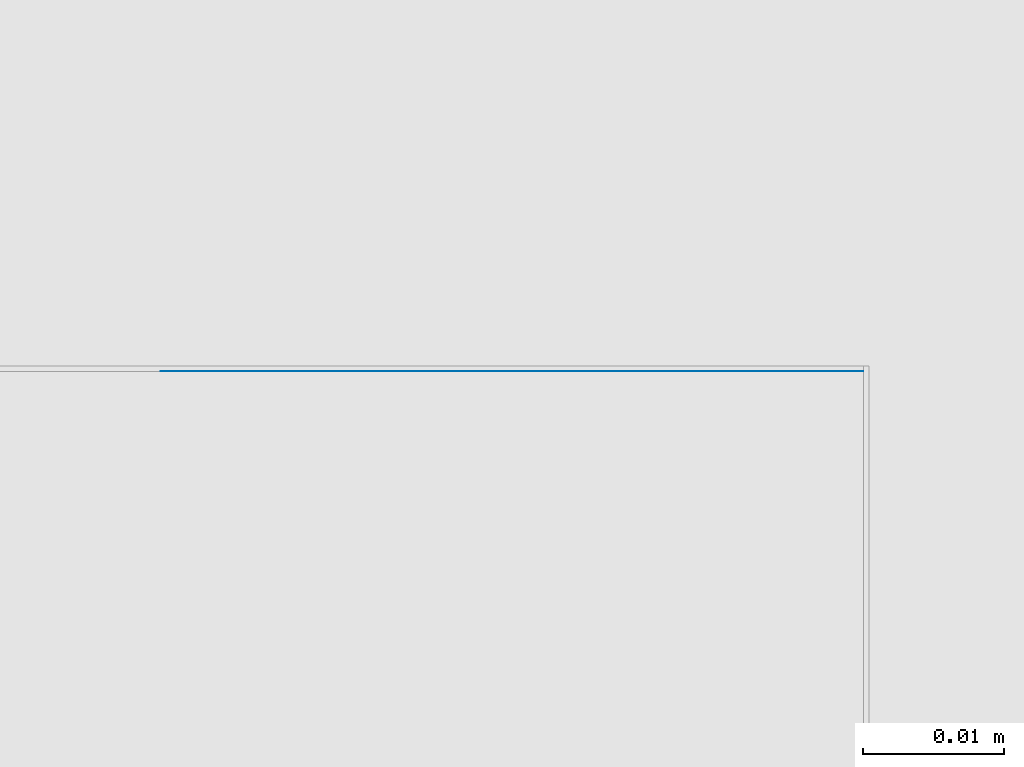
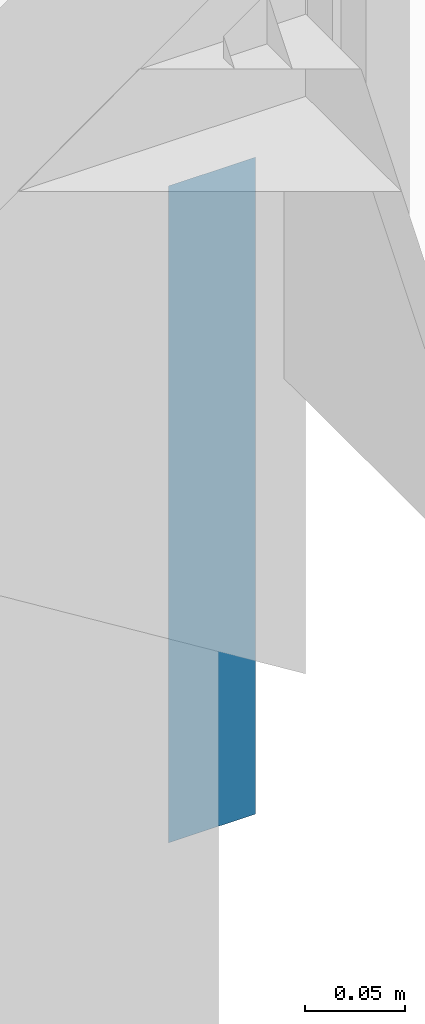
# One storey, part 9 of 16: 1 member, 1 element without a shape of its own.
"""IFC2X3 building model written with IfcOpenShell, lengths in millimetres."""

from ifc_helpers import new_model, entity, si_unit, converted_unit, derived_unit, direction, frame, origin, place, context, subcontext, project, spatial, face_set, surface_model, type_object, element, aggregate, save


model = new_model("IFC2X3")

# Units and contexts
model_context = context("Model", 3, precision=0.01, world=origin(), true_north=direction((4.05803320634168e-15, -1.0)))
body_context = subcontext(model_context, "Body", "Model", "MODEL_VIEW")
ifc_project = project(units=[si_unit("LENGTHUNIT", "METRE", prefix="MILLI"), si_unit("AREAUNIT", "SQUARE_METRE"), si_unit("VOLUMEUNIT", "CUBIC_METRE"), converted_unit("PLANEANGLEUNIT", "DEGREE", entity("IfcRatioMeasure", 0.0174532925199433), si_unit("PLANEANGLEUNIT", "RADIAN"), dimensions=[0, 0, 0, 0, 0, 0, 0]), si_unit("MASSUNIT", "GRAM", prefix="KILO"), derived_unit("MASSDENSITYUNIT", [(si_unit("MASSUNIT", "GRAM", prefix="KILO"), 1), (si_unit("LENGTHUNIT", "METRE"), -3)]), si_unit("TIMEUNIT", "SECOND"), si_unit("FREQUENCYUNIT", "HERTZ"), si_unit("THERMODYNAMICTEMPERATUREUNIT", "DEGREE_CELSIUS"), derived_unit("THERMALTRANSMITTANCEUNIT", [(si_unit("MASSUNIT", "GRAM", prefix="KILO"), 1), (si_unit("THERMODYNAMICTEMPERATUREUNIT", "KELVIN"), -1), (si_unit("TIMEUNIT", "SECOND"), -3)]), derived_unit("VOLUMETRICFLOWRATEUNIT", [(si_unit("LENGTHUNIT", "METRE"), 3), (si_unit("TIMEUNIT", "SECOND"), -1)]), si_unit("ELECTRICCURRENTUNIT", "AMPERE"), si_unit("ELECTRICVOLTAGEUNIT", "VOLT"), si_unit("POWERUNIT", "WATT"), si_unit("FORCEUNIT", "NEWTON", prefix="KILO"), si_unit("ILLUMINANCEUNIT", "LUX"), si_unit("LUMINOUSFLUXUNIT", "LUMEN"), si_unit("LUMINOUSINTENSITYUNIT", "CANDELA"), derived_unit("USERDEFINED", [(si_unit("MASSUNIT", "GRAM", prefix="KILO"), -1), (si_unit("LENGTHUNIT", "METRE"), -2), (si_unit("TIMEUNIT", "SECOND"), 3), (si_unit("LUMINOUSFLUXUNIT", "LUMEN"), 1)]), derived_unit("LINEARVELOCITYUNIT", [(si_unit("LENGTHUNIT", "METRE"), 1), (si_unit("TIMEUNIT", "SECOND"), -1)]), si_unit("PRESSUREUNIT", "PASCAL"), derived_unit("USERDEFINED", [(si_unit("LENGTHUNIT", "METRE"), -2), (si_unit("MASSUNIT", "GRAM", prefix="KILO"), 1), (si_unit("TIMEUNIT", "SECOND"), -2)])], contexts=[model_context])

# Site, building, storey
site_placement = place(None, frame((927466.849349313, 583801.882853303, 0.0), z_axis=(0.0, 0.0, 1.0), x_axis=(-1.0, 0.0, 0.0)))
site = spatial("IfcSite", under=ifc_project, at=site_placement, Name="Surface", CompositionType="ELEMENT")
building_placement = place(site_placement, origin())
building = spatial("IfcBuilding", under=site, at=building_placement, CompositionType="ELEMENT")
storey_placement = place(building_placement, frame((0.0, 0.0, 42810.0)))
storey = spatial("IfcBuildingStorey", under=building, at=storey_placement, Name="Hardstand", CompositionType="ELEMENT", Elevation=42810.0)

# Stair, member
stair_placement = place(storey_placement, origin())
stair = element("IfcStair", 1, at=stair_placement, inside=storey, Name="Assembled Stair:Stair", ObjectType="Assembled Stair:170mm max riser 270mm going", ShapeType="NOTDEFINED")
member_type = type_object("IfcMemberType", Name="Stringer:Stringer - 50mm Width", PredefinedType="STRINGER")
member_placement = place(stair_placement, frame((-77958.5913038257, 13342.1710387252, 0.0)))
member = element("IfcMember", 2, at=member_placement, type_object=member_type, Name="Assembled Stair:Stair:767068 Stringer 13", ObjectType="Assembled Stair:170mm max riser 270mm going", context=body_context, shape_type="SurfaceModel", body=[
    surface_model("IfcFaceBasedSurfaceModel", [(50.0, 0.0, 2395.0), (0.0, 0.0, 2395.0), (0.0, 0.0, 1995.0), (50.0, 0.0, 1995.0)], [face_set([[[0, 1, 2, 3]], [[0, 1, 2, 3]]])]),
])
aggregate(stair, [member])

save(model, "model.ifc")
